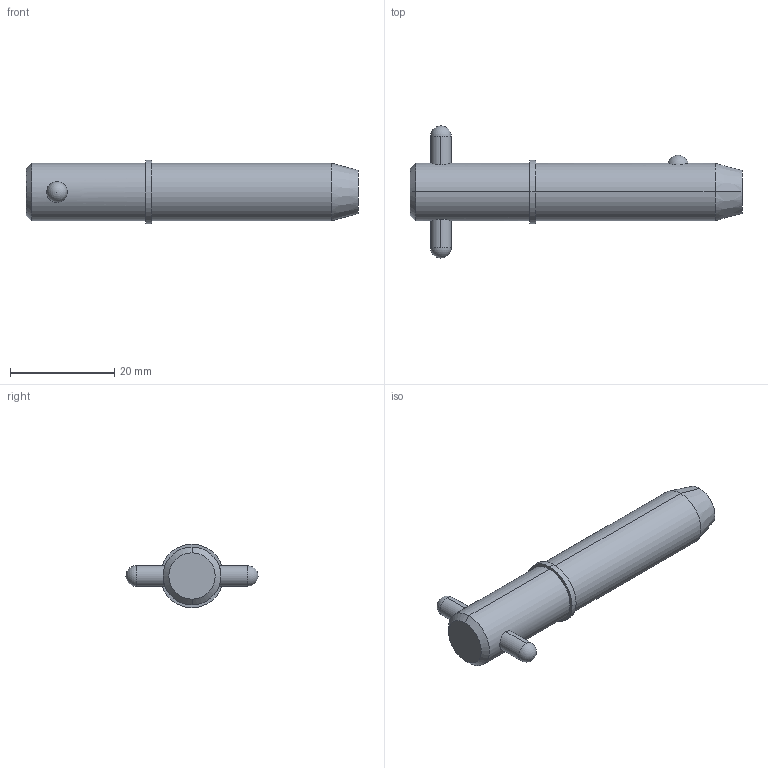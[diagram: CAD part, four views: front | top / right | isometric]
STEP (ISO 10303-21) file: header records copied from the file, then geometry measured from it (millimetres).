
FILE_DESCRIPTION (( 'STEP AP203' ), '1' );
FILE_NAME ('33018.W4310.step', '2024-11-19T17:12:40', ( '' ), ( '' ), 'SwSTEP 2.0', 'SolidWorks 2019', '' );
FILE_SCHEMA (( 'CONFIG_CONTROL_DESIGN' ));
Length unit declared in the file: millimetre
Products named in the file (3): 33018.W4310; Part1_33018.W4310; Part2_33018.W4310
Assembly tree (2 placements, depth 2):
  33018.W4310
    Part1_33018.W4310
    Part2_33018.W4310
Bounding box: 63.8 x 25.4 x 12.22 mm (x, y, z)
Volume: 6246.3 mm3; surface area: 2814.9 mm2
Topology: 2 solids, 2 shells, 22 faces, 47 edges, 30 vertices
Faces by surface type: cylinder 10, sphere 4, cone 4, plane 4
Entity records: 1031 total; most frequent: CARTESIAN_POINT 274, DIRECTION 110, ORIENTED_EDGE 82, AXIS2_PLACEMENT_3D 48, EDGE_CURVE 41, EDGE_LOOP 27, PERSON_AND_ORGANIZATION 26, VERTEX_POINT 26
